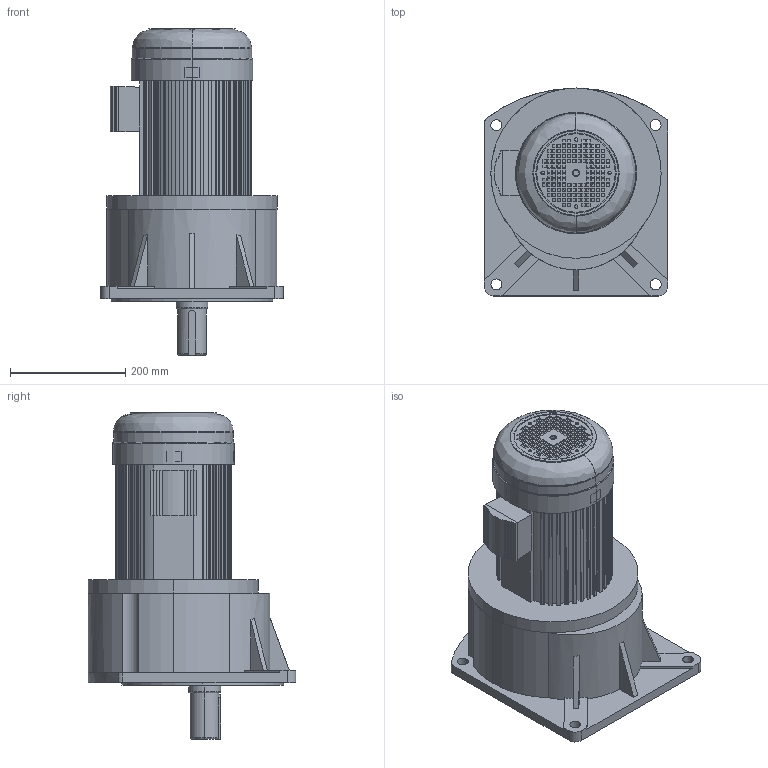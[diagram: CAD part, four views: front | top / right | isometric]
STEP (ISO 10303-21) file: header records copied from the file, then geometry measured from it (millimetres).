
FILE_DESCRIPTION (( 'STEP AP214' ), '1' );
FILE_NAME ('CV50-3700W去字改颜色.STEP', '2024-01-11T06:27:33', ( '微软用户' ), ( '微软中国' ), 'SwSTEP 2.0', 'SolidWorks 2014', '' );
FILE_SCHEMA (( 'AUTOMOTIVE_DESIGN' ));
Length unit declared in the file: millimetre
Products named in the file (1): CV50-3700W去字改颜色
Bounding box: 317 x 360 x 565 mm (x, y, z)
Volume: 15314024.3 mm3; surface area: 1224192.5 mm2
Topology: 5 solids, 5 shells, 1284 faces, 3706 edges, 2444 vertices
Faces by surface type: plane 827, cylinder 417, bspline 21, cone 19
Entity records: 43925 total; most frequent: CARTESIAN_POINT 8584, ORIENTED_EDGE 7412, DIRECTION 7098, EDGE_CURVE 3706, LINE 2748, VECTOR 2748, VERTEX_POINT 2444, AXIS2_PLACEMENT_3D 2175
